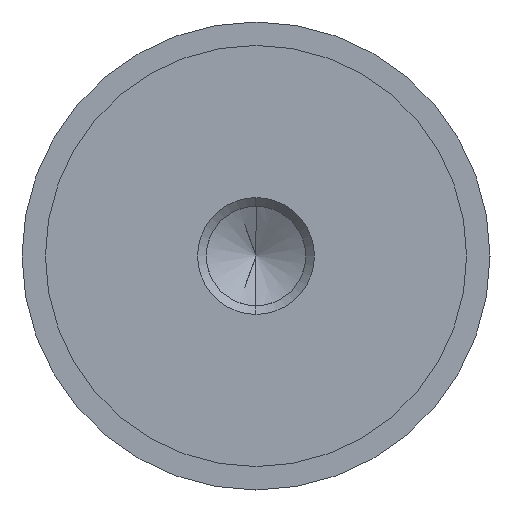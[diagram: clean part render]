
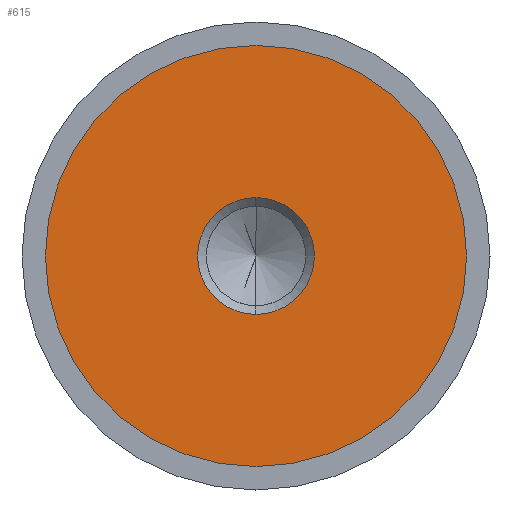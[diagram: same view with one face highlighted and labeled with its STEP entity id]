
A CAD part, left-side view. The second image highlights one B-rep face of the part: STEP entity #615.
In plain terms, the highlighted planar face has unit normal (-1, 0, 0).
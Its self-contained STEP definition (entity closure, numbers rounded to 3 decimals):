
#15 = DIRECTION ( 'NONE',  ( 0., 0., -1. ) ) ;
#29 = DIRECTION ( 'NONE',  ( 0., 0., 1. ) ) ;
#55 = EDGE_CURVE ( 'NONE', #628, #730, #282, .T. ) ;
#65 = DIRECTION ( 'NONE',  ( 1., 0., 0. ) ) ;
#91 = CARTESIAN_POINT ( 'NONE',  ( -9.99, 0., 0. ) ) ;
#92 = DIRECTION ( 'NONE',  ( 1., 0., 0. ) ) ;
#125 = VERTEX_POINT ( 'NONE', #229 ) ;
#157 = ORIENTED_EDGE ( 'NONE', *, *, #379, .T. ) ;
#159 = AXIS2_PLACEMENT_3D ( 'NONE', #271, #92, #258 ) ;
#164 = ORIENTED_EDGE ( 'NONE', *, *, #694, .T. ) ;
#192 = ORIENTED_EDGE ( 'NONE', *, *, #55, .T. ) ;
#211 = CARTESIAN_POINT ( 'NONE',  ( -9.99, 0., 0. ) ) ;
#229 = CARTESIAN_POINT ( 'NONE',  ( -9.99, 0., -4.99 ) ) ;
#234 = EDGE_LOOP ( 'NONE', ( #245, #164 ) ) ;
#245 = ORIENTED_EDGE ( 'NONE', *, *, #274, .T. ) ;
#247 = DIRECTION ( 'NONE',  ( 0., 0., -1. ) ) ;
#258 = DIRECTION ( 'NONE',  ( 0., 0., -1. ) ) ;
#271 = CARTESIAN_POINT ( 'NONE',  ( -9.99, 18., 0. ) ) ;
#274 = EDGE_CURVE ( 'NONE', #402, #125, #699, .T. ) ;
#282 = CIRCLE ( 'NONE', #724, 18. ) ;
#324 = DIRECTION ( 'NONE',  ( 0., 0., 1. ) ) ;
#371 = CARTESIAN_POINT ( 'NONE',  ( -9.99, 0., -18. ) ) ;
#379 = EDGE_CURVE ( 'NONE', #730, #628, #453, .T. ) ;
#389 = CARTESIAN_POINT ( 'NONE',  ( -9.99, 0., 18. ) ) ;
#402 = VERTEX_POINT ( 'NONE', #650 ) ;
#419 = AXIS2_PLACEMENT_3D ( 'NONE', #635, #641, #15 ) ;
#450 = PLANE ( 'NONE',  #159 ) ;
#453 = CIRCLE ( 'NONE', #728, 18. ) ;
#488 = FACE_BOUND ( 'NONE', #234, .T. ) ;
#498 = DIRECTION ( 'NONE',  ( -1., 0., 0. ) ) ;
#566 = CIRCLE ( 'NONE', #419, 4.99 ) ;
#615 = ADVANCED_FACE ( 'NONE', ( #488, #737 ), #450, .F. ) ;
#625 = AXIS2_PLACEMENT_3D ( 'NONE', #727, #65, #247 ) ;
#628 = VERTEX_POINT ( 'NONE', #389 ) ;
#635 = CARTESIAN_POINT ( 'NONE',  ( -9.99, 0., 0. ) ) ;
#641 = DIRECTION ( 'NONE',  ( 1., 0., 0. ) ) ;
#650 = CARTESIAN_POINT ( 'NONE',  ( -9.99, 0., 4.99 ) ) ;
#673 = EDGE_LOOP ( 'NONE', ( #192, #157 ) ) ;
#694 = EDGE_CURVE ( 'NONE', #125, #402, #566, .T. ) ;
#699 = CIRCLE ( 'NONE', #625, 4.99 ) ;
#724 = AXIS2_PLACEMENT_3D ( 'NONE', #91, #498, #324 ) ;
#727 = CARTESIAN_POINT ( 'NONE',  ( -9.99, 0., 0. ) ) ;
#728 = AXIS2_PLACEMENT_3D ( 'NONE', #211, #744, #29 ) ;
#730 = VERTEX_POINT ( 'NONE', #371 ) ;
#737 = FACE_OUTER_BOUND ( 'NONE', #673, .T. ) ;
#744 = DIRECTION ( 'NONE',  ( -1., 0., 0. ) ) ;
